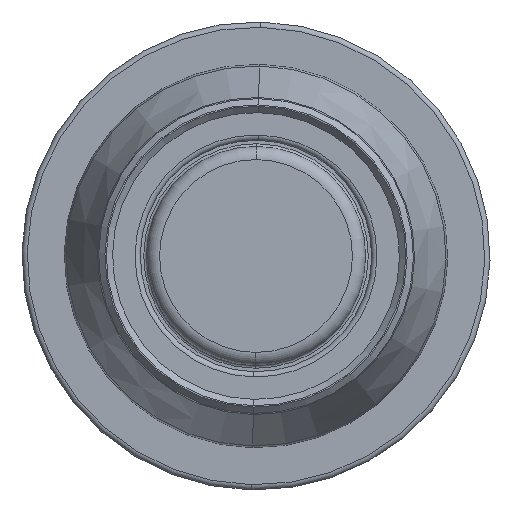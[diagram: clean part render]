
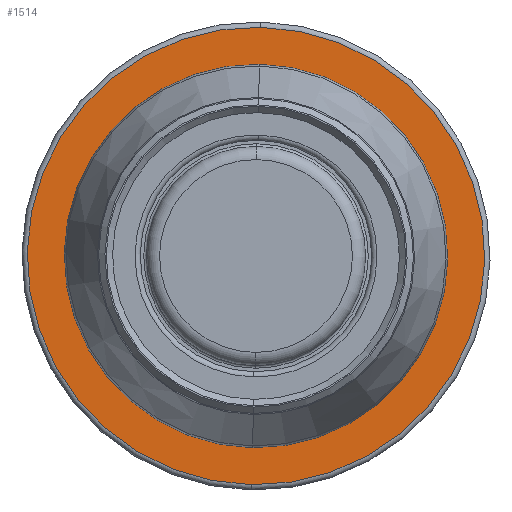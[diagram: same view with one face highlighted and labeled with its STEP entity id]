
A CAD part, front view. The second image highlights one B-rep face of the part: STEP entity #1514.
In plain terms, the highlighted planar face has unit normal (0, -1, 0).
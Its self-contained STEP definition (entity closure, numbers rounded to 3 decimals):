
#1330 = CARTESIAN_POINT ( 'NONE',  ( 0., 4.5, 0. ) ) ;
#1514 = ADVANCED_FACE ( 'NONE', ( #11815, #7708 ), #14333, .T. ) ;
#1888 = VERTEX_POINT ( 'NONE', #9940 ) ;
#3159 = DIRECTION ( 'NONE',  ( 0., -1., 0. ) ) ;
#3208 = CARTESIAN_POINT ( 'NONE',  ( 0., 4.5, 0. ) ) ;
#3288 = EDGE_CURVE ( 'NONE', #7881, #13443, #18482, .T. ) ;
#3555 = CARTESIAN_POINT ( 'NONE',  ( 0., 4.5, -43.3 ) ) ;
#5173 = CARTESIAN_POINT ( 'NONE',  ( 29.95, 4.5, 0. ) ) ;
#5681 = DIRECTION ( 'NONE',  ( 0., -1., 0. ) ) ;
#7289 = DIRECTION ( 'NONE',  ( 0., 0., -1. ) ) ;
#7708 = FACE_BOUND ( 'NONE', #19057, .T. ) ;
#7881 = VERTEX_POINT ( 'NONE', #3555 ) ;
#8092 = EDGE_CURVE ( 'NONE', #13443, #7881, #8096, .T. ) ;
#8096 = CIRCLE ( 'NONE', #14779, 43.3 ) ;
#8705 = DIRECTION ( 'NONE',  ( 0., 0., -1. ) ) ;
#8990 = CARTESIAN_POINT ( 'NONE',  ( 0., 4.5, 43.3 ) ) ;
#9037 = ORIENTED_EDGE ( 'NONE', *, *, #8092, .T. ) ;
#9060 = EDGE_LOOP ( 'NONE', ( #16791, #9037 ) ) ;
#9308 = AXIS2_PLACEMENT_3D ( 'NONE', #3208, #9413, #10685 ) ;
#9413 = DIRECTION ( 'NONE',  ( 0., -1., 0. ) ) ;
#9940 = CARTESIAN_POINT ( 'NONE',  ( 0., 4.5, 29.95 ) ) ;
#10114 = DIRECTION ( 'NONE',  ( 0., -1., 0. ) ) ;
#10685 = DIRECTION ( 'NONE',  ( 0., 0., -1. ) ) ;
#11243 = AXIS2_PLACEMENT_3D ( 'NONE', #16367, #10114, #7289 ) ;
#11815 = FACE_OUTER_BOUND ( 'NONE', #9060, .T. ) ;
#12456 = EDGE_CURVE ( 'NONE', #1888, #12465, #17124, .T. ) ;
#12465 = VERTEX_POINT ( 'NONE', #13256 ) ;
#13189 = AXIS2_PLACEMENT_3D ( 'NONE', #5173, #17412, #18970 ) ;
#13256 = CARTESIAN_POINT ( 'NONE',  ( 0., 4.5, -29.95 ) ) ;
#13443 = VERTEX_POINT ( 'NONE', #8990 ) ;
#14333 = PLANE ( 'NONE',  #13189 ) ;
#14779 = AXIS2_PLACEMENT_3D ( 'NONE', #1330, #5681, #8705 ) ;
#15488 = CARTESIAN_POINT ( 'NONE',  ( 0., 4.5, 0. ) ) ;
#15778 = ORIENTED_EDGE ( 'NONE', *, *, #18750, .F. ) ;
#15822 = CIRCLE ( 'NONE', #9308, 29.95 ) ;
#16367 = CARTESIAN_POINT ( 'NONE',  ( 0., 4.5, 0. ) ) ;
#16791 = ORIENTED_EDGE ( 'NONE', *, *, #3288, .T. ) ;
#17124 = CIRCLE ( 'NONE', #11243, 29.95 ) ;
#17412 = DIRECTION ( 'NONE',  ( 0., -1., 0. ) ) ;
#17550 = AXIS2_PLACEMENT_3D ( 'NONE', #15488, #3159, #18406 ) ;
#18406 = DIRECTION ( 'NONE',  ( 0., 0., -1. ) ) ;
#18482 = CIRCLE ( 'NONE', #17550, 43.3 ) ;
#18750 = EDGE_CURVE ( 'NONE', #12465, #1888, #15822, .T. ) ;
#18970 = DIRECTION ( 'NONE',  ( 0., 0., -1. ) ) ;
#19057 = EDGE_LOOP ( 'NONE', ( #15778, #19629 ) ) ;
#19629 = ORIENTED_EDGE ( 'NONE', *, *, #12456, .F. ) ;
